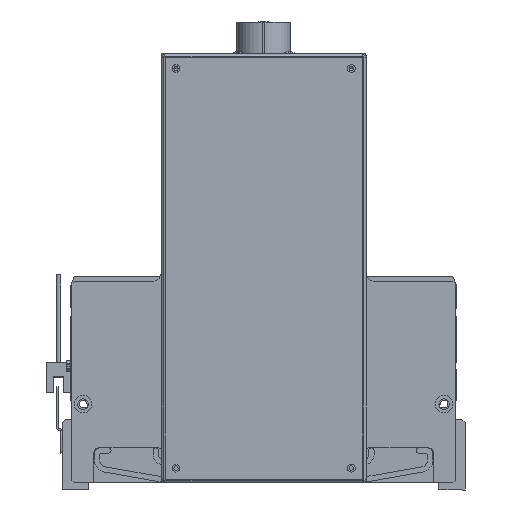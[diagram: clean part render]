
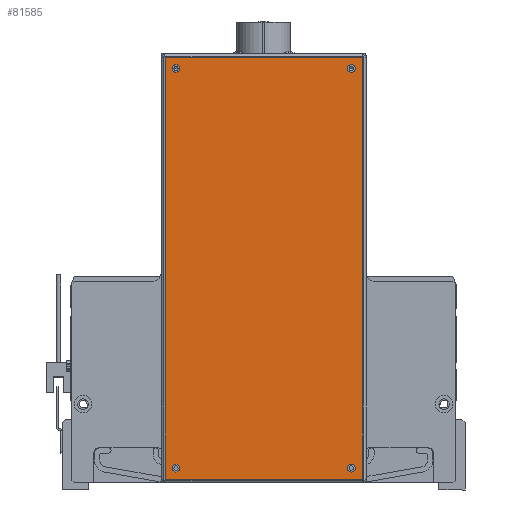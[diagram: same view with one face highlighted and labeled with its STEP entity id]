
A CAD part, front view. The second image highlights one B-rep face of the part: STEP entity #81585.
In plain terms, the highlighted planar face has unit normal (0, -1, 0) as drawn and (0, 0, 1) by its records, which use the part's own axes.
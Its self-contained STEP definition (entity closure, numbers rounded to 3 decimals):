
#1013 = CARTESIAN_POINT ( 'NONE',  ( 56.26, 120.26, 71.5 ) ) ;
#1656 = AXIS2_PLACEMENT_3D ( 'NONE', #45426, #54661, #28128 ) ;
#4348 = DIRECTION ( 'NONE',  ( 0., -1., 0. ) ) ;
#5659 = ORIENTED_EDGE ( 'NONE', *, *, #96407, .F. ) ;
#5766 = CARTESIAN_POINT ( 'NONE',  ( -50., -111.75, 71.5 ) ) ;
#8285 = CARTESIAN_POINT ( 'NONE',  ( 50., 111.75, 71.5 ) ) ;
#9497 = CARTESIAN_POINT ( 'NONE',  ( -56.26, 120.26, 71.5 ) ) ;
#10315 = FACE_BOUND ( 'NONE', #91584, .T. ) ;
#10663 = VERTEX_POINT ( 'NONE', #9497 ) ;
#12440 = EDGE_LOOP ( 'NONE', ( #64787, #19785 ) ) ;
#13559 = EDGE_CURVE ( 'NONE', #15657, #69847, #78547, .T. ) ;
#14628 = AXIS2_PLACEMENT_3D ( 'NONE', #56949, #81912, #4348 ) ;
#15657 = VERTEX_POINT ( 'NONE', #100041 ) ;
#17003 = CARTESIAN_POINT ( 'NONE',  ( -56.293, -120.26, 71.5 ) ) ;
#17882 = CARTESIAN_POINT ( 'NONE',  ( -56.26, 120.293, 71.5 ) ) ;
#18490 = DIRECTION ( 'NONE',  ( -1., 0., 0. ) ) ;
#18821 = EDGE_CURVE ( 'NONE', #55632, #55099, #60070, .T. ) ;
#19785 = ORIENTED_EDGE ( 'NONE', *, *, #18821, .F. ) ;
#19997 = CARTESIAN_POINT ( 'NONE',  ( -50., -114., 71.5 ) ) ;
#21596 = CIRCLE ( 'NONE', #49595, 2.25 ) ;
#21989 = ORIENTED_EDGE ( 'NONE', *, *, #94331, .F. ) ;
#22593 = FACE_BOUND ( 'NONE', #12440, .T. ) ;
#23710 = AXIS2_PLACEMENT_3D ( 'NONE', #68163, #94131, #58580 ) ;
#27268 = EDGE_CURVE ( 'NONE', #69847, #10663, #105071, .T. ) ;
#27532 = CARTESIAN_POINT ( 'NONE',  ( -50., 114., 71.5 ) ) ;
#27649 = VECTOR ( 'NONE', #52887, 1000. ) ;
#28128 = DIRECTION ( 'NONE',  ( 0., -1., 0. ) ) ;
#28822 = DIRECTION ( 'NONE',  ( 0., -1., 0. ) ) ;
#29125 = AXIS2_PLACEMENT_3D ( 'NONE', #19997, #81452, #28822 ) ;
#29598 = DIRECTION ( 'NONE',  ( 0., 1., 0. ) ) ;
#29802 = VERTEX_POINT ( 'NONE', #56514 ) ;
#30842 = FACE_OUTER_BOUND ( 'NONE', #104386, .T. ) ;
#31788 = VECTOR ( 'NONE', #29598, 1000. ) ;
#32941 = VERTEX_POINT ( 'NONE', #106656 ) ;
#34259 = DIRECTION ( 'NONE',  ( 1., 0., 0. ) ) ;
#34285 = VERTEX_POINT ( 'NONE', #105711 ) ;
#34575 = AXIS2_PLACEMENT_3D ( 'NONE', #107094, #83806, #98323 ) ;
#37905 = DIRECTION ( 'NONE',  ( 0., -1., 0. ) ) ;
#41136 = ORIENTED_EDGE ( 'NONE', *, *, #66096, .F. ) ;
#45426 = CARTESIAN_POINT ( 'NONE',  ( 50., 114., 71.5 ) ) ;
#45444 = CARTESIAN_POINT ( 'NONE',  ( -50., 116.25, 71.5 ) ) ;
#45758 = AXIS2_PLACEMENT_3D ( 'NONE', #72901, #80950, #37905 ) ;
#46511 = EDGE_CURVE ( 'NONE', #70119, #55737, #112520, .T. ) ;
#49258 = EDGE_LOOP ( 'NONE', ( #57319, #109946 ) ) ;
#49595 = AXIS2_PLACEMENT_3D ( 'NONE', #112340, #94383, #86386 ) ;
#52887 = DIRECTION ( 'NONE',  ( 0., -1., 0. ) ) ;
#52930 = DIRECTION ( 'NONE',  ( 0., 0., 1. ) ) ;
#53493 = CARTESIAN_POINT ( 'NONE',  ( 56.293, 120.26, 71.5 ) ) ;
#54275 = FACE_BOUND ( 'NONE', #49258, .T. ) ;
#54661 = DIRECTION ( 'NONE',  ( 0., 0., 1. ) ) ;
#55019 = CARTESIAN_POINT ( 'NONE',  ( 50., -111.75, 71.5 ) ) ;
#55099 = VERTEX_POINT ( 'NONE', #81631 ) ;
#55327 = EDGE_CURVE ( 'NONE', #32941, #15657, #58277, .T. ) ;
#55632 = VERTEX_POINT ( 'NONE', #55019 ) ;
#55737 = VERTEX_POINT ( 'NONE', #5766 ) ;
#56221 = ORIENTED_EDGE ( 'NONE', *, *, #46511, .F. ) ;
#56514 = CARTESIAN_POINT ( 'NONE',  ( -50., 111.75, 71.5 ) ) ;
#56949 = CARTESIAN_POINT ( 'NONE',  ( 50., 114., 71.5 ) ) ;
#57319 = ORIENTED_EDGE ( 'NONE', *, *, #97090, .F. ) ;
#58277 = LINE ( 'NONE', #17003, #74792 ) ;
#58580 = DIRECTION ( 'NONE',  ( 0., -1., 0. ) ) ;
#58957 = EDGE_CURVE ( 'NONE', #84234, #29802, #111172, .T. ) ;
#59356 = PLANE ( 'NONE',  #23710 ) ;
#60070 = CIRCLE ( 'NONE', #45758, 2.25 ) ;
#64787 = ORIENTED_EDGE ( 'NONE', *, *, #113011, .F. ) ;
#65749 = AXIS2_PLACEMENT_3D ( 'NONE', #77598, #94788, #86391 ) ;
#66096 = EDGE_CURVE ( 'NONE', #79635, #34285, #80517, .T. ) ;
#68163 = CARTESIAN_POINT ( 'NONE',  ( 0., 0., 71.5 ) ) ;
#69767 = EDGE_CURVE ( 'NONE', #10663, #32941, #86634, .T. ) ;
#69847 = VERTEX_POINT ( 'NONE', #1013 ) ;
#70119 = VERTEX_POINT ( 'NONE', #77320 ) ;
#72901 = CARTESIAN_POINT ( 'NONE',  ( 50., -114., 71.5 ) ) ;
#74792 = VECTOR ( 'NONE', #34259, 1000. ) ;
#77320 = CARTESIAN_POINT ( 'NONE',  ( -50., -116.25, 71.5 ) ) ;
#77598 = CARTESIAN_POINT ( 'NONE',  ( -50., 114., 71.5 ) ) ;
#78547 = LINE ( 'NONE', #108561, #31788 ) ;
#79635 = VERTEX_POINT ( 'NONE', #8285 ) ;
#80517 = CIRCLE ( 'NONE', #1656, 2.25 ) ;
#80950 = DIRECTION ( 'NONE',  ( 0., 0., 1. ) ) ;
#81452 = DIRECTION ( 'NONE',  ( 0., 0., 1. ) ) ;
#81585 = ADVANCED_FACE ( 'NONE', ( #107646, #22593, #10315, #54275, #30842 ), #59356, .T. ) ;
#81631 = CARTESIAN_POINT ( 'NONE',  ( 50., -116.25, 71.5 ) ) ;
#81912 = DIRECTION ( 'NONE',  ( 0., 0., 1. ) ) ;
#83806 = DIRECTION ( 'NONE',  ( 0., 0., 1. ) ) ;
#84234 = VERTEX_POINT ( 'NONE', #45444 ) ;
#86386 = DIRECTION ( 'NONE',  ( 0., -1., 0. ) ) ;
#86391 = DIRECTION ( 'NONE',  ( 0., -1., 0. ) ) ;
#86634 = LINE ( 'NONE', #17882, #27649 ) ;
#91584 = EDGE_LOOP ( 'NONE', ( #56221, #21989 ) ) ;
#94131 = DIRECTION ( 'NONE',  ( 0., 0., 1. ) ) ;
#94331 = EDGE_CURVE ( 'NONE', #55737, #70119, #103630, .T. ) ;
#94383 = DIRECTION ( 'NONE',  ( 0., 0., 1. ) ) ;
#94749 = AXIS2_PLACEMENT_3D ( 'NONE', #27532, #52930, #106477 ) ;
#94788 = DIRECTION ( 'NONE',  ( 0., 0., 1. ) ) ;
#96407 = EDGE_CURVE ( 'NONE', #34285, #79635, #104804, .T. ) ;
#97090 = EDGE_CURVE ( 'NONE', #29802, #84234, #102042, .T. ) ;
#98306 = VECTOR ( 'NONE', #18490, 1000. ) ;
#98323 = DIRECTION ( 'NONE',  ( 0., -1., 0. ) ) ;
#100041 = CARTESIAN_POINT ( 'NONE',  ( 56.26, -120.26, 71.5 ) ) ;
#102042 = CIRCLE ( 'NONE', #94749, 2.25 ) ;
#103630 = CIRCLE ( 'NONE', #29125, 2.25 ) ;
#104386 = EDGE_LOOP ( 'NONE', ( #104729, #111359, #108839, #109165 ) ) ;
#104729 = ORIENTED_EDGE ( 'NONE', *, *, #27268, .T. ) ;
#104804 = CIRCLE ( 'NONE', #14628, 2.25 ) ;
#105071 = LINE ( 'NONE', #53493, #98306 ) ;
#105701 = EDGE_LOOP ( 'NONE', ( #41136, #5659 ) ) ;
#105711 = CARTESIAN_POINT ( 'NONE',  ( 50., 116.25, 71.5 ) ) ;
#106477 = DIRECTION ( 'NONE',  ( 0., -1., 0. ) ) ;
#106656 = CARTESIAN_POINT ( 'NONE',  ( -56.26, -120.26, 71.5 ) ) ;
#107094 = CARTESIAN_POINT ( 'NONE',  ( -50., -114., 71.5 ) ) ;
#107646 = FACE_BOUND ( 'NONE', #105701, .T. ) ;
#108561 = CARTESIAN_POINT ( 'NONE',  ( 56.26, -120.293, 71.5 ) ) ;
#108839 = ORIENTED_EDGE ( 'NONE', *, *, #55327, .T. ) ;
#109165 = ORIENTED_EDGE ( 'NONE', *, *, #13559, .T. ) ;
#109946 = ORIENTED_EDGE ( 'NONE', *, *, #58957, .F. ) ;
#111172 = CIRCLE ( 'NONE', #65749, 2.25 ) ;
#111359 = ORIENTED_EDGE ( 'NONE', *, *, #69767, .T. ) ;
#112340 = CARTESIAN_POINT ( 'NONE',  ( 50., -114., 71.5 ) ) ;
#112520 = CIRCLE ( 'NONE', #34575, 2.25 ) ;
#113011 = EDGE_CURVE ( 'NONE', #55099, #55632, #21596, .T. ) ;
